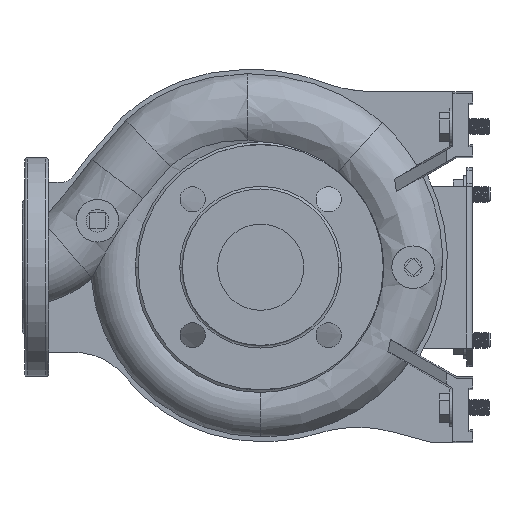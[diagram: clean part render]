
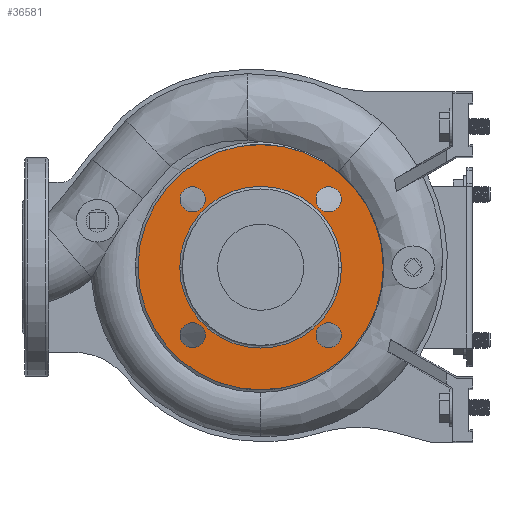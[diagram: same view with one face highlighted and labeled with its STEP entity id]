
A CAD part, left-side view. The second image highlights one B-rep face of the part: STEP entity #36581.
In plain terms, the highlighted planar face has unit normal (-1, 0, 0).
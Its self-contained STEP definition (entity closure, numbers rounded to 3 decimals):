
#1802 = DIRECTION ( 'NONE',  ( -1., 0., 0. ) ) ;
#2076 = VERTEX_POINT ( 'NONE', #39325 ) ;
#2120 = ORIENTED_EDGE ( 'NONE', *, *, #73043, .F. ) ;
#2912 = EDGE_CURVE ( 'NONE', #92928, #65247, #160021, .T. ) ;
#2977 = CARTESIAN_POINT ( 'NONE',  ( -98., 61., 0. ) ) ;
#2991 = CIRCLE ( 'NONE', #101052, 92.5 ) ;
#3352 = DIRECTION ( 'NONE',  ( 0., 0., 1. ) ) ;
#4120 = CIRCLE ( 'NONE', #179593, 9.5 ) ;
#4794 = DIRECTION ( 'NONE',  ( 1., 0., 0. ) ) ;
#5520 = CARTESIAN_POINT ( 'NONE',  ( -98., 51.265, -51.265 ) ) ;
#5967 = VERTEX_POINT ( 'NONE', #124326 ) ;
#6358 = DIRECTION ( 'NONE',  ( -1., 0., 0. ) ) ;
#14324 = AXIS2_PLACEMENT_3D ( 'NONE', #127742, #43004, #15090 ) ;
#14332 = CARTESIAN_POINT ( 'NONE',  ( -98., -60.765, 51.265 ) ) ;
#15090 = DIRECTION ( 'NONE',  ( 0., -1., 0. ) ) ;
#16669 = DIRECTION ( 'NONE',  ( 0., -1., 0. ) ) ;
#16885 = EDGE_LOOP ( 'NONE', ( #165070, #84924 ) ) ;
#18216 = DIRECTION ( 'NONE',  ( -1., 0., 0. ) ) ;
#19970 = DIRECTION ( 'NONE',  ( 0., -1., 0. ) ) ;
#23247 = EDGE_CURVE ( 'NONE', #144969, #81474, #35952, .T. ) ;
#23993 = EDGE_LOOP ( 'NONE', ( #134593, #64085 ) ) ;
#24532 = DIRECTION ( 'NONE',  ( -1., 0., 0. ) ) ;
#24640 = CARTESIAN_POINT ( 'NONE',  ( -98., -51.265, -51.265 ) ) ;
#24993 = CARTESIAN_POINT ( 'NONE',  ( -98., 61., 0. ) ) ;
#25409 = ORIENTED_EDGE ( 'NONE', *, *, #82782, .F. ) ;
#25886 = DIRECTION ( 'NONE',  ( 0., -1., 0. ) ) ;
#26698 = VERTEX_POINT ( 'NONE', #144028 ) ;
#29377 = DIRECTION ( 'NONE',  ( -1., 0., 0. ) ) ;
#34351 = DIRECTION ( 'NONE',  ( 0., 0., 1. ) ) ;
#35436 = CARTESIAN_POINT ( 'NONE',  ( -98., -51.265, 51.265 ) ) ;
#35461 = FACE_BOUND ( 'NONE', #182809, .T. ) ;
#35952 = CIRCLE ( 'NONE', #65709, 9.5 ) ;
#36581 = ADVANCED_FACE ( 'NONE', ( #148155, #35461, #117424, #161236, #176112, #174295 ), #90392, .F. ) ;
#38499 = CARTESIAN_POINT ( 'NONE',  ( -98., 51.265, 51.265 ) ) ;
#39325 = CARTESIAN_POINT ( 'NONE',  ( -98., 41.765, -51.265 ) ) ;
#39854 = CARTESIAN_POINT ( 'NONE',  ( -98., 0., 0. ) ) ;
#40412 = EDGE_CURVE ( 'NONE', #59797, #5967, #179864, .T. ) ;
#40825 = AXIS2_PLACEMENT_3D ( 'NONE', #145779, #18216, #3352 ) ;
#43004 = DIRECTION ( 'NONE',  ( -1., 0., 0. ) ) ;
#43033 = CIRCLE ( 'NONE', #102579, 9.5 ) ;
#44060 = CIRCLE ( 'NONE', #91609, 9.5 ) ;
#45513 = CARTESIAN_POINT ( 'NONE',  ( -98., 0., 0. ) ) ;
#46052 = ORIENTED_EDGE ( 'NONE', *, *, #55795, .F. ) ;
#49741 = DIRECTION ( 'NONE',  ( -1., 0., 0. ) ) ;
#55795 = EDGE_CURVE ( 'NONE', #2076, #177616, #121103, .T. ) ;
#59797 = VERTEX_POINT ( 'NONE', #149934 ) ;
#61531 = EDGE_CURVE ( 'NONE', #143603, #67864, #181629, .T. ) ;
#63986 = AXIS2_PLACEMENT_3D ( 'NONE', #24640, #123342, #80511 ) ;
#64085 = ORIENTED_EDGE ( 'NONE', *, *, #156111, .F. ) ;
#64958 = CARTESIAN_POINT ( 'NONE',  ( -98., -51.265, -51.265 ) ) ;
#65247 = VERTEX_POINT ( 'NONE', #147386 ) ;
#65709 = AXIS2_PLACEMENT_3D ( 'NONE', #35436, #165775, #94965 ) ;
#66923 = EDGE_LOOP ( 'NONE', ( #98412, #130479 ) ) ;
#67864 = VERTEX_POINT ( 'NONE', #144212 ) ;
#68713 = CARTESIAN_POINT ( 'NONE',  ( -98., -92.5, 0. ) ) ;
#73043 = EDGE_CURVE ( 'NONE', #81474, #144969, #43033, .T. ) ;
#74094 = EDGE_CURVE ( 'NONE', #129495, #26698, #129438, .T. ) ;
#74551 = ORIENTED_EDGE ( 'NONE', *, *, #74094, .F. ) ;
#80511 = DIRECTION ( 'NONE',  ( 0., 1., 0. ) ) ;
#81474 = VERTEX_POINT ( 'NONE', #112291 ) ;
#82782 = EDGE_CURVE ( 'NONE', #26698, #129495, #44060, .T. ) ;
#84924 = ORIENTED_EDGE ( 'NONE', *, *, #61531, .F. ) ;
#90392 = PLANE ( 'NONE',  #182963 ) ;
#91609 = AXIS2_PLACEMENT_3D ( 'NONE', #64958, #6358, #108712 ) ;
#92877 = EDGE_CURVE ( 'NONE', #65247, #92928, #2991, .T. ) ;
#92928 = VERTEX_POINT ( 'NONE', #68713 ) ;
#94776 = CARTESIAN_POINT ( 'NONE',  ( -98., -51.265, 51.265 ) ) ;
#94965 = DIRECTION ( 'NONE',  ( 0., 0., -1. ) ) ;
#97358 = CARTESIAN_POINT ( 'NONE',  ( -98., 0., 0. ) ) ;
#98412 = ORIENTED_EDGE ( 'NONE', *, *, #2912, .T. ) ;
#98518 = DIRECTION ( 'NONE',  ( -1., 0., 0. ) ) ;
#99543 = AXIS2_PLACEMENT_3D ( 'NONE', #38499, #24532, #164272 ) ;
#101052 = AXIS2_PLACEMENT_3D ( 'NONE', #39854, #98518, #25886 ) ;
#102579 = AXIS2_PLACEMENT_3D ( 'NONE', #94776, #151625, #137632 ) ;
#108406 = ORIENTED_EDGE ( 'NONE', *, *, #23247, .F. ) ;
#108712 = DIRECTION ( 'NONE',  ( 0., 1., 0. ) ) ;
#110613 = CARTESIAN_POINT ( 'NONE',  ( -98., -60.765, -51.265 ) ) ;
#112291 = CARTESIAN_POINT ( 'NONE',  ( -98., -41.765, 51.265 ) ) ;
#117424 = FACE_BOUND ( 'NONE', #146320, .T. ) ;
#118299 = ORIENTED_EDGE ( 'NONE', *, *, #155315, .F. ) ;
#119065 = DIRECTION ( 'NONE',  ( -1., 0., 0. ) ) ;
#119254 = DIRECTION ( 'NONE',  ( 0., 1., 0. ) ) ;
#121103 = CIRCLE ( 'NONE', #40825, 9.5 ) ;
#123342 = DIRECTION ( 'NONE',  ( -1., 0., 0. ) ) ;
#123412 = AXIS2_PLACEMENT_3D ( 'NONE', #97358, #29377, #126219 ) ;
#124326 = CARTESIAN_POINT ( 'NONE',  ( -98., 60.765, 51.265 ) ) ;
#126219 = DIRECTION ( 'NONE',  ( 0., -1., 0. ) ) ;
#126391 = CIRCLE ( 'NONE', #132383, 9.5 ) ;
#127742 = CARTESIAN_POINT ( 'NONE',  ( -98., 0., 0. ) ) ;
#129438 = CIRCLE ( 'NONE', #63986, 9.5 ) ;
#129495 = VERTEX_POINT ( 'NONE', #110613 ) ;
#130334 = EDGE_CURVE ( 'NONE', #67864, #143603, #147239, .T. ) ;
#130479 = ORIENTED_EDGE ( 'NONE', *, *, #92877, .T. ) ;
#132383 = AXIS2_PLACEMENT_3D ( 'NONE', #5520, #119065, #34351 ) ;
#134593 = ORIENTED_EDGE ( 'NONE', *, *, #40412, .F. ) ;
#136950 = AXIS2_PLACEMENT_3D ( 'NONE', #45513, #1802, #16669 ) ;
#137632 = DIRECTION ( 'NONE',  ( 0., 0., -1. ) ) ;
#143603 = VERTEX_POINT ( 'NONE', #24993 ) ;
#144028 = CARTESIAN_POINT ( 'NONE',  ( -98., -41.765, -51.265 ) ) ;
#144212 = CARTESIAN_POINT ( 'NONE',  ( -98., -61., 0. ) ) ;
#144969 = VERTEX_POINT ( 'NONE', #14332 ) ;
#145779 = CARTESIAN_POINT ( 'NONE',  ( -98., 51.265, -51.265 ) ) ;
#146320 = EDGE_LOOP ( 'NONE', ( #46052, #118299 ) ) ;
#147239 = CIRCLE ( 'NONE', #123412, 61. ) ;
#147386 = CARTESIAN_POINT ( 'NONE',  ( -98., 92.5, 0. ) ) ;
#147563 = CARTESIAN_POINT ( 'NONE',  ( -98., 51.265, 51.265 ) ) ;
#148155 = FACE_BOUND ( 'NONE', #164171, .T. ) ;
#149117 = CARTESIAN_POINT ( 'NONE',  ( -98., 60.765, -51.265 ) ) ;
#149934 = CARTESIAN_POINT ( 'NONE',  ( -98., 41.765, 51.265 ) ) ;
#151625 = DIRECTION ( 'NONE',  ( -1., 0., 0. ) ) ;
#155315 = EDGE_CURVE ( 'NONE', #177616, #2076, #126391, .T. ) ;
#156111 = EDGE_CURVE ( 'NONE', #5967, #59797, #4120, .T. ) ;
#160021 = CIRCLE ( 'NONE', #14324, 92.5 ) ;
#161236 = FACE_BOUND ( 'NONE', #23993, .T. ) ;
#164171 = EDGE_LOOP ( 'NONE', ( #108406, #2120 ) ) ;
#164272 = DIRECTION ( 'NONE',  ( 0., -1., 0. ) ) ;
#165070 = ORIENTED_EDGE ( 'NONE', *, *, #130334, .F. ) ;
#165775 = DIRECTION ( 'NONE',  ( -1., 0., 0. ) ) ;
#174295 = FACE_OUTER_BOUND ( 'NONE', #66923, .T. ) ;
#176112 = FACE_BOUND ( 'NONE', #16885, .T. ) ;
#177616 = VERTEX_POINT ( 'NONE', #149117 ) ;
#179593 = AXIS2_PLACEMENT_3D ( 'NONE', #147563, #49741, #19970 ) ;
#179864 = CIRCLE ( 'NONE', #99543, 9.5 ) ;
#181629 = CIRCLE ( 'NONE', #136950, 61. ) ;
#182809 = EDGE_LOOP ( 'NONE', ( #74551, #25409 ) ) ;
#182963 = AXIS2_PLACEMENT_3D ( 'NONE', #2977, #4794, #119254 ) ;
